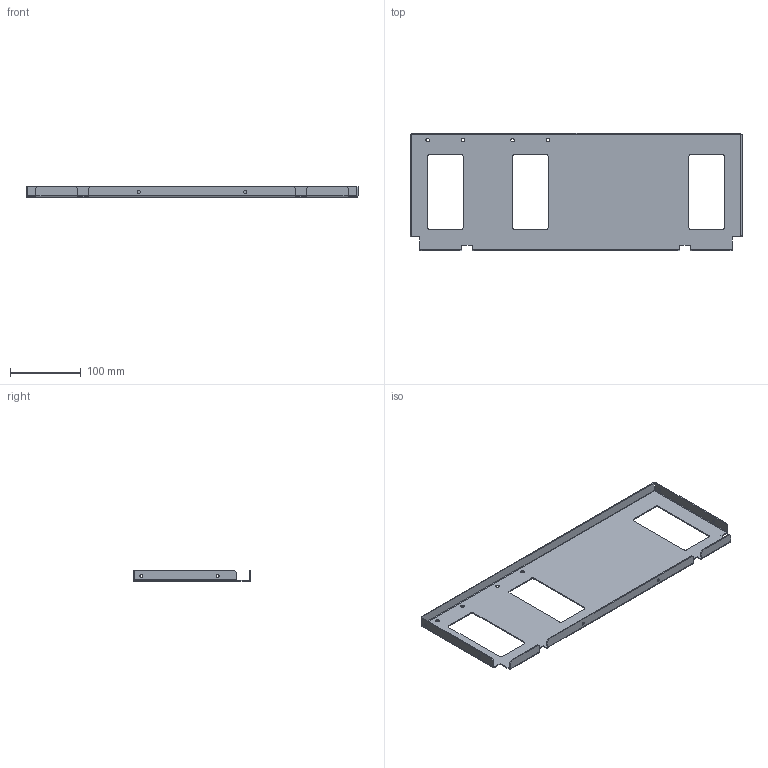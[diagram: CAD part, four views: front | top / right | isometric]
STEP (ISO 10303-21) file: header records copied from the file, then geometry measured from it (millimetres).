
FILE_DESCRIPTION(('CAx-IF Rec.Pracs.---Model Styling and Organization---1.2---2011-12-15','CAx-IF Rec.Pracs.---Geometric and Assembly Validation Properties---4.1---2014-06-16','CAx-IF Rec.Pracs.---PMI Polyline Presentation---2.0---2013-05-24'),'2;1');
FILE_NAME('R5M2W4M1BP.stp','2021-05-05T12:20:42+03:00',(''),(''),'STEP Interface 4.4 by CT CoreTechnologie','3D_Evolution4.4 by CT CoreTechnologie','');
FILE_SCHEMA(('AUTOMOTIVE_DESIGN { 1 0 10303 214 1 1 1 1 }'));
Length unit declared in the file: millimetre
Products named in the file (2): R5M2W4M1BP; RB.1511.00.00.0_-01
Assembly tree (1 placements, depth 2):
  R5M2W4M1BP
    RB.1511.00.00.0_-01
Bounding box: 469 x 166.5 x 15 mm (x, y, z)
Surface area: 156106.7 mm2 (no closed solid volume)
Topology: 0 solids, 1 shells, 106 faces, 288 edges, 184 vertices
Faces by surface type: plane 58, cylinder 44, bspline 4
Entity records: 3517 total; most frequent: CARTESIAN_POINT 656, DIRECTION 584, ORIENTED_EDGE 576, EDGE_CURVE 288, VECTOR 200, LINE 200, AXIS2_PLACEMENT_3D 192, VERTEX_POINT 184
